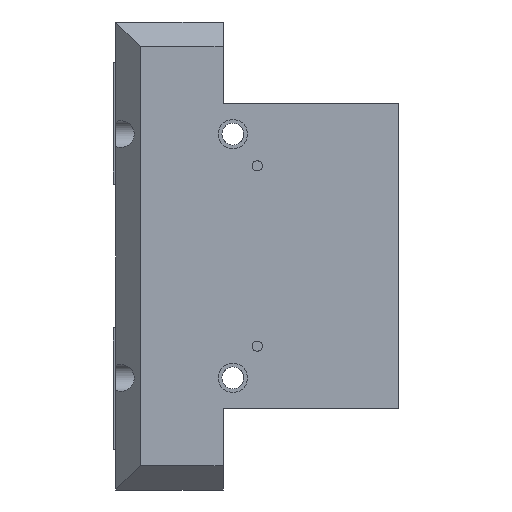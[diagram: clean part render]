
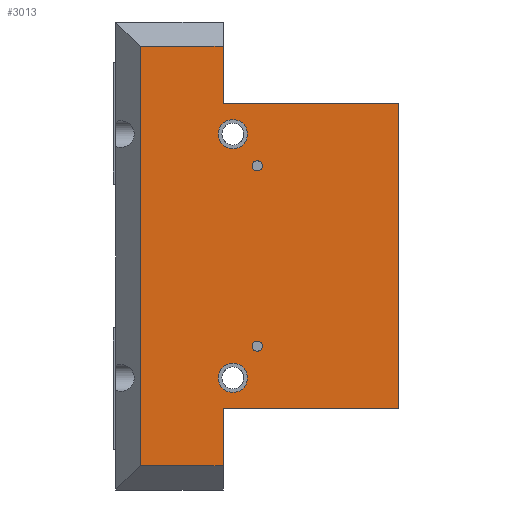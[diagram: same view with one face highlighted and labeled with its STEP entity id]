
A CAD part, left-side view. The second image highlights one B-rep face of the part: STEP entity #3013.
In plain terms, the highlighted planar face has unit normal (-1, 0, 0).
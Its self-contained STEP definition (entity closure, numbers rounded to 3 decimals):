
#25 = VERTEX_POINT ( 'NONE', #4286 ) ;
#26 = EDGE_CURVE ( 'NONE', #32, #25, #4280, .T. ) ;
#27 = EDGE_CURVE ( 'NONE', #35, #47, #4285, .T. ) ;
#32 = VERTEX_POINT ( 'NONE', #4268 ) ;
#35 = VERTEX_POINT ( 'NONE', #4264 ) ;
#47 = VERTEX_POINT ( 'NONE', #4434 ) ;
#49 = EDGE_CURVE ( 'NONE', #62, #56, #4431, .T. ) ;
#56 = VERTEX_POINT ( 'NONE', #4437 ) ;
#62 = VERTEX_POINT ( 'NONE', #4251 ) ;
#274 = VERTEX_POINT ( 'NONE', #4738 ) ;
#275 = VERTEX_POINT ( 'NONE', #4730 ) ;
#300 = EDGE_CURVE ( 'NONE', #274, #275, #4815, .T. ) ;
#1476 = CARTESIAN_POINT ( 'NONE',  ( -36., 0., -62.5 ) ) ;
#1513 = CARTESIAN_POINT ( 'NONE',  ( -36., 106., -86. ) ) ;
#2264 = DIRECTION ( 'NONE',  ( 0., 0., -1. ) ) ;
#2265 = VECTOR ( 'NONE', #2264, 1000. ) ;
#2268 = CARTESIAN_POINT ( 'NONE',  ( -36., 0., 96. ) ) ;
#2269 = LINE ( 'NONE', #2268, #2265 ) ;
#2371 = CARTESIAN_POINT ( 'NONE',  ( -36., 0., 62.5 ) ) ;
#2981 = VERTEX_POINT ( 'NONE', #5384 ) ;
#2982 = EDGE_CURVE ( 'NONE', #4982, #2981, #5375, .T. ) ;
#2990 = ORIENTED_EDGE ( 'NONE', *, *, #27, .F. ) ;
#2991 = ORIENTED_EDGE ( 'NONE', *, *, #2993, .F. ) ;
#2992 = EDGE_LOOP ( 'NONE', ( #2998, #3010 ) ) ;
#2993 = EDGE_CURVE ( 'NONE', #47, #35, #5359, .T. ) ;
#2994 = EDGE_CURVE ( 'NONE', #25, #32, #5383, .T. ) ;
#2995 = ORIENTED_EDGE ( 'NONE', *, *, #2994, .F. ) ;
#2996 = EDGE_LOOP ( 'NONE', ( #2997, #3005 ) ) ;
#2997 = ORIENTED_EDGE ( 'NONE', *, *, #3001, .F. ) ;
#2998 = ORIENTED_EDGE ( 'NONE', *, *, #3000, .F. ) ;
#2999 = ORIENTED_EDGE ( 'NONE', *, *, #26, .F. ) ;
#3000 = EDGE_CURVE ( 'NONE', #56, #62, #5406, .T. ) ;
#3001 = EDGE_CURVE ( 'NONE', #275, #274, #5360, .T. ) ;
#3003 = ORIENTED_EDGE ( 'NONE', *, *, #3045, .T. ) ;
#3004 = EDGE_LOOP ( 'NONE', ( #3042, #3044, #3003, #4981, #3188, #3187, #3293, #3292 ) ) ;
#3005 = ORIENTED_EDGE ( 'NONE', *, *, #300, .F. ) ;
#3007 = EDGE_LOOP ( 'NONE', ( #2995, #2999 ) ) ;
#3010 = ORIENTED_EDGE ( 'NONE', *, *, #49, .F. ) ;
#3012 = VERTEX_POINT ( 'NONE', #5392 ) ;
#3013 = ADVANCED_FACE ( 'NONE', ( #5387, #5402, #5376, #5391, #5385 ), #5386, .F. ) ;
#3028 = EDGE_LOOP ( 'NONE', ( #2991, #2990 ) ) ;
#3039 = VERTEX_POINT ( 'NONE', #5513 ) ;
#3040 = VERTEX_POINT ( 'NONE', #5411 ) ;
#3041 = EDGE_CURVE ( 'NONE', #3039, #3040, #5418, .T. ) ;
#3042 = ORIENTED_EDGE ( 'NONE', *, *, #3041, .T. ) ;
#3043 = EDGE_CURVE ( 'NONE', #3040, #3012, #5313, .T. ) ;
#3044 = ORIENTED_EDGE ( 'NONE', *, *, #3043, .T. ) ;
#3045 = EDGE_CURVE ( 'NONE', #3012, #4982, #5307, .T. ) ;
#3187 = ORIENTED_EDGE ( 'NONE', *, *, #3196, .T. ) ;
#3188 = ORIENTED_EDGE ( 'NONE', *, *, #3198, .T. ) ;
#3196 = EDGE_CURVE ( 'NONE', #3200, #4992, #5598, .T. ) ;
#3198 = EDGE_CURVE ( 'NONE', #2981, #3200, #5668, .T. ) ;
#3199 = EDGE_CURVE ( 'NONE', #3039, #5227, #5664, .T. ) ;
#3200 = VERTEX_POINT ( 'NONE', #5674 ) ;
#3292 = ORIENTED_EDGE ( 'NONE', *, *, #3199, .F. ) ;
#3293 = ORIENTED_EDGE ( 'NONE', *, *, #5245, .F. ) ;
#4226 = CARTESIAN_POINT ( 'NONE',  ( -36., 58., -37. ) ) ;
#4227 = CARTESIAN_POINT ( 'NONE',  ( -36., 58., 37. ) ) ;
#4251 = CARTESIAN_POINT ( 'NONE',  ( -36., 68., 44. ) ) ;
#4264 = CARTESIAN_POINT ( 'NONE',  ( -36., 58., 34.9 ) ) ;
#4268 = CARTESIAN_POINT ( 'NONE',  ( -36., 58., -39.1 ) ) ;
#4270 = DIRECTION ( 'NONE',  ( 0., 0., 1. ) ) ;
#4271 = DIRECTION ( 'NONE',  ( -1., 0., 0. ) ) ;
#4276 = AXIS2_PLACEMENT_3D ( 'NONE', #4227, #4271, #4270 ) ;
#4277 = DIRECTION ( 'NONE',  ( 0., 0., 1. ) ) ;
#4278 = DIRECTION ( 'NONE',  ( -1., 0., 0. ) ) ;
#4279 = AXIS2_PLACEMENT_3D ( 'NONE', #4226, #4278, #4277 ) ;
#4280 = CIRCLE ( 'NONE', #4279, 2.1 ) ;
#4285 = CIRCLE ( 'NONE', #4276, 2.1 ) ;
#4286 = CARTESIAN_POINT ( 'NONE',  ( -36., 58., -34.9 ) ) ;
#4427 = DIRECTION ( 'NONE',  ( 0., 0., 1. ) ) ;
#4428 = DIRECTION ( 'NONE',  ( -1., 0., 0. ) ) ;
#4429 = CARTESIAN_POINT ( 'NONE',  ( -36., 68., 50. ) ) ;
#4430 = AXIS2_PLACEMENT_3D ( 'NONE', #4429, #4428, #4427 ) ;
#4431 = CIRCLE ( 'NONE', #4430, 6. ) ;
#4434 = CARTESIAN_POINT ( 'NONE',  ( -36., 58., 39.1 ) ) ;
#4437 = CARTESIAN_POINT ( 'NONE',  ( -36., 68., 56. ) ) ;
#4730 = CARTESIAN_POINT ( 'NONE',  ( -36., 68., -44. ) ) ;
#4738 = CARTESIAN_POINT ( 'NONE',  ( -36., 68., -56. ) ) ;
#4812 = DIRECTION ( 'NONE',  ( 0., 0., 1. ) ) ;
#4813 = DIRECTION ( 'NONE',  ( -1., 0., 0. ) ) ;
#4814 = AXIS2_PLACEMENT_3D ( 'NONE', #4818, #4813, #4812 ) ;
#4815 = CIRCLE ( 'NONE', #4814, 6. ) ;
#4818 = CARTESIAN_POINT ( 'NONE',  ( -36., 68., -50. ) ) ;
#4981 = ORIENTED_EDGE ( 'NONE', *, *, #2982, .T. ) ;
#4982 = VERTEX_POINT ( 'NONE', #1513 ) ;
#4992 = VERTEX_POINT ( 'NONE', #1476 ) ;
#5227 = VERTEX_POINT ( 'NONE', #2371 ) ;
#5245 = EDGE_CURVE ( 'NONE', #5227, #4992, #2269, .T. ) ;
#5304 = DIRECTION ( 'NONE',  ( 0., 0., -1. ) ) ;
#5305 = VECTOR ( 'NONE', #5304, 1000. ) ;
#5306 = CARTESIAN_POINT ( 'NONE',  ( -36., 106., 96. ) ) ;
#5307 = LINE ( 'NONE', #5306, #5305 ) ;
#5310 = DIRECTION ( 'NONE',  ( 0., 1., 0. ) ) ;
#5311 = VECTOR ( 'NONE', #5310, 1000. ) ;
#5312 = CARTESIAN_POINT ( 'NONE',  ( -36., 116., 86. ) ) ;
#5313 = LINE ( 'NONE', #5312, #5311 ) ;
#5315 = DIRECTION ( 'NONE',  ( 0., 0., 1. ) ) ;
#5316 = VECTOR ( 'NONE', #5315, 1000. ) ;
#5317 = CARTESIAN_POINT ( 'NONE',  ( -36., 72., 96. ) ) ;
#5352 = DIRECTION ( 'NONE',  ( -1., 0., 0. ) ) ;
#5353 = CARTESIAN_POINT ( 'NONE',  ( -36., 68., 50. ) ) ;
#5354 = DIRECTION ( 'NONE',  ( 0., 0., 1. ) ) ;
#5355 = DIRECTION ( 'NONE',  ( -1., 0., 0. ) ) ;
#5356 = CARTESIAN_POINT ( 'NONE',  ( -36., 58., 37. ) ) ;
#5357 = AXIS2_PLACEMENT_3D ( 'NONE', #5356, #5355, #5354 ) ;
#5358 = CARTESIAN_POINT ( 'NONE',  ( -36., 58., -37. ) ) ;
#5359 = CIRCLE ( 'NONE', #5357, 2.1 ) ;
#5360 = CIRCLE ( 'NONE', #5365, 6. ) ;
#5365 = AXIS2_PLACEMENT_3D ( 'NONE', #5401, #5400, #5399 ) ;
#5372 = DIRECTION ( 'NONE',  ( 0., -1., 0. ) ) ;
#5373 = VECTOR ( 'NONE', #5372, 1000. ) ;
#5374 = CARTESIAN_POINT ( 'NONE',  ( -36., 116., -86. ) ) ;
#5375 = LINE ( 'NONE', #5374, #5373 ) ;
#5376 = FACE_BOUND ( 'NONE', #2992, .T. ) ;
#5383 = CIRCLE ( 'NONE', #5408, 2.1 ) ;
#5384 = CARTESIAN_POINT ( 'NONE',  ( -36., 72., -86. ) ) ;
#5385 = FACE_OUTER_BOUND ( 'NONE', #3004, .T. ) ;
#5386 = PLANE ( 'NONE',  #5446 ) ;
#5387 = FACE_BOUND ( 'NONE', #3028, .T. ) ;
#5391 = FACE_BOUND ( 'NONE', #2996, .T. ) ;
#5392 = CARTESIAN_POINT ( 'NONE',  ( -36., 106., 86. ) ) ;
#5399 = DIRECTION ( 'NONE',  ( 0., 0., 1. ) ) ;
#5400 = DIRECTION ( 'NONE',  ( -1., 0., 0. ) ) ;
#5401 = CARTESIAN_POINT ( 'NONE',  ( -36., 68., -50. ) ) ;
#5402 = FACE_BOUND ( 'NONE', #3007, .T. ) ;
#5403 = DIRECTION ( 'NONE',  ( 0., 0., 1. ) ) ;
#5404 = DIRECTION ( 'NONE',  ( -1., 0., 0. ) ) ;
#5405 = AXIS2_PLACEMENT_3D ( 'NONE', #5353, #5404, #5403 ) ;
#5406 = CIRCLE ( 'NONE', #5405, 6. ) ;
#5407 = DIRECTION ( 'NONE',  ( 0., 0., 1. ) ) ;
#5408 = AXIS2_PLACEMENT_3D ( 'NONE', #5358, #5352, #5407 ) ;
#5411 = CARTESIAN_POINT ( 'NONE',  ( -36., 72., 86. ) ) ;
#5418 = LINE ( 'NONE', #5317, #5316 ) ;
#5443 = DIRECTION ( 'NONE',  ( 0., 1., 0. ) ) ;
#5444 = DIRECTION ( 'NONE',  ( 1., 0., 0. ) ) ;
#5445 = CARTESIAN_POINT ( 'NONE',  ( -36., 116., 96. ) ) ;
#5446 = AXIS2_PLACEMENT_3D ( 'NONE', #5445, #5444, #5443 ) ;
#5513 = CARTESIAN_POINT ( 'NONE',  ( -36., 72., 62.5 ) ) ;
#5598 = LINE ( 'NONE', #5602, #5673 ) ;
#5601 = DIRECTION ( 'NONE',  ( 0., -1., 0. ) ) ;
#5602 = CARTESIAN_POINT ( 'NONE',  ( -36., 195.412, -62.5 ) ) ;
#5661 = DIRECTION ( 'NONE',  ( 0., -1., 0. ) ) ;
#5662 = VECTOR ( 'NONE', #5661, 1000. ) ;
#5663 = CARTESIAN_POINT ( 'NONE',  ( -36., 195.412, 62.5 ) ) ;
#5664 = LINE ( 'NONE', #5663, #5662 ) ;
#5665 = DIRECTION ( 'NONE',  ( 0., 0., 1. ) ) ;
#5666 = VECTOR ( 'NONE', #5665, 1000. ) ;
#5667 = CARTESIAN_POINT ( 'NONE',  ( -36., 72., -62.5 ) ) ;
#5668 = LINE ( 'NONE', #5667, #5666 ) ;
#5673 = VECTOR ( 'NONE', #5601, 1000. ) ;
#5674 = CARTESIAN_POINT ( 'NONE',  ( -36., 72., -62.5 ) ) ;
